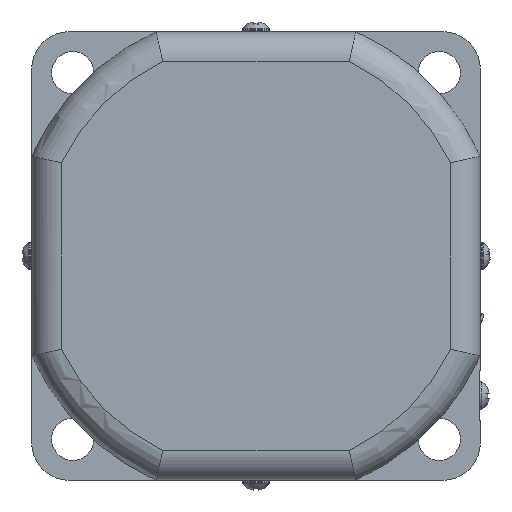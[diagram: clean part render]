
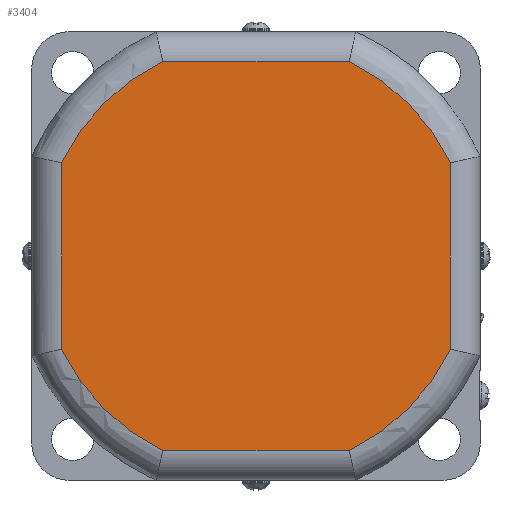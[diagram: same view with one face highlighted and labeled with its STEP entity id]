
A CAD part, left-side view. The second image highlights one B-rep face of the part: STEP entity #3404.
In plain terms, the highlighted planar face has unit normal (-1, 0, 0).
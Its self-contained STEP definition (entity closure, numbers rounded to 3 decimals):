
#311=FACE_OUTER_BOUND('',#522,.T.);
#522=EDGE_LOOP('',(#2433,#2434,#2435,#2436,#2437,#2438,#2439,#2440));
#792=LINE('',#5372,#1039);
#795=LINE('',#5392,#1042);
#796=LINE('',#5445,#1043);
#797=LINE('',#5462,#1044);
#1039=VECTOR('',#4138,37.393);
#1042=VECTOR('',#4143,37.393);
#1043=VECTOR('',#4158,37.393);
#1044=VECTOR('',#4161,37.393);
#1242=CIRCLE('',#3639,43.25);
#1243=CIRCLE('',#3643,43.25);
#1246=CIRCLE('',#3647,43.25);
#1247=CIRCLE('',#3651,43.25);
#1439=VERTEX_POINT('',#5322);
#1441=VERTEX_POINT('',#5339);
#1443=VERTEX_POINT('',#5357);
#1445=VERTEX_POINT('',#5376);
#1446=VERTEX_POINT('',#5394);
#1447=VERTEX_POINT('',#5412);
#1448=VERTEX_POINT('',#5430);
#1449=VERTEX_POINT('',#5447);
#1808=EDGE_CURVE('',#1441,#1439,#1242,.T.);
#1810=EDGE_CURVE('',#1443,#1441,#792,.T.);
#1814=EDGE_CURVE('',#1439,#1445,#795,.T.);
#1816=EDGE_CURVE('',#1446,#1443,#1243,.T.);
#1820=EDGE_CURVE('',#1445,#1447,#1246,.T.);
#1822=EDGE_CURVE('',#1448,#1446,#796,.T.);
#1824=EDGE_CURVE('',#1447,#1449,#797,.T.);
#1825=EDGE_CURVE('',#1449,#1448,#1247,.T.);
#2433=ORIENTED_EDGE('',*,*,#1824,.F.);
#2434=ORIENTED_EDGE('',*,*,#1820,.F.);
#2435=ORIENTED_EDGE('',*,*,#1814,.F.);
#2436=ORIENTED_EDGE('',*,*,#1808,.F.);
#2437=ORIENTED_EDGE('',*,*,#1810,.F.);
#2438=ORIENTED_EDGE('',*,*,#1816,.F.);
#2439=ORIENTED_EDGE('',*,*,#1822,.F.);
#2440=ORIENTED_EDGE('',*,*,#1825,.F.);
#3061=PLANE('',#3653);
#3404=ADVANCED_FACE('',(#311),#3061,.F.);
#3639=AXIS2_PLACEMENT_3D('',#5354,#4134,#4135);
#3643=AXIS2_PLACEMENT_3D('',#5409,#4146,#4147);
#3647=AXIS2_PLACEMENT_3D('',#5428,#4154,#4155);
#3651=AXIS2_PLACEMENT_3D('',#5464,#4164,#4165);
#3653=AXIS2_PLACEMENT_3D('',#5466,#4168,#4169);
#4134=DIRECTION('center_axis',(1.,0.,0.));
#4135=DIRECTION('ref_axis',(0.,-0.707,-0.707));
#4138=DIRECTION('',(0.,0.,-1.));
#4143=DIRECTION('',(0.,1.,0.));
#4146=DIRECTION('center_axis',(1.,0.,0.));
#4147=DIRECTION('ref_axis',(0.,-0.707,0.707));
#4154=DIRECTION('center_axis',(1.,0.,0.));
#4155=DIRECTION('ref_axis',(0.,0.707,-0.707));
#4158=DIRECTION('',(0.,-1.,0.));
#4161=DIRECTION('',(0.,0.,1.));
#4164=DIRECTION('center_axis',(1.,0.,0.));
#4165=DIRECTION('ref_axis',(0.,0.707,0.707));
#4168=DIRECTION('center_axis',(1.,0.,0.));
#4169=DIRECTION('ref_axis',(0.,0.,-1.));
#5322=CARTESIAN_POINT('',(-17.8,-18.697,-39.));
#5339=CARTESIAN_POINT('',(-17.8,-39.,-18.697));
#5354=CARTESIAN_POINT('Origin',(-17.8,0.,
0.));
#5357=CARTESIAN_POINT('',(-17.8,-39.,18.697));
#5372=CARTESIAN_POINT('',(-17.8,-39.,18.697));
#5376=CARTESIAN_POINT('',(-17.8,18.697,-39.));
#5392=CARTESIAN_POINT('',(-17.8,-18.697,-39.));
#5394=CARTESIAN_POINT('',(-17.8,-18.697,39.));
#5409=CARTESIAN_POINT('Origin',(-17.8,0.,
0.));
#5412=CARTESIAN_POINT('',(-17.8,39.,-18.697));
#5428=CARTESIAN_POINT('Origin',(-17.8,0.,
0.));
#5430=CARTESIAN_POINT('',(-17.8,18.697,39.));
#5445=CARTESIAN_POINT('',(-17.8,18.697,39.));
#5447=CARTESIAN_POINT('',(-17.8,39.,18.697));
#5462=CARTESIAN_POINT('',(-17.8,39.,-18.697));
#5464=CARTESIAN_POINT('Origin',(-17.8,0.,
0.));
#5466=CARTESIAN_POINT('Origin',(-17.8,0.,
0.));
